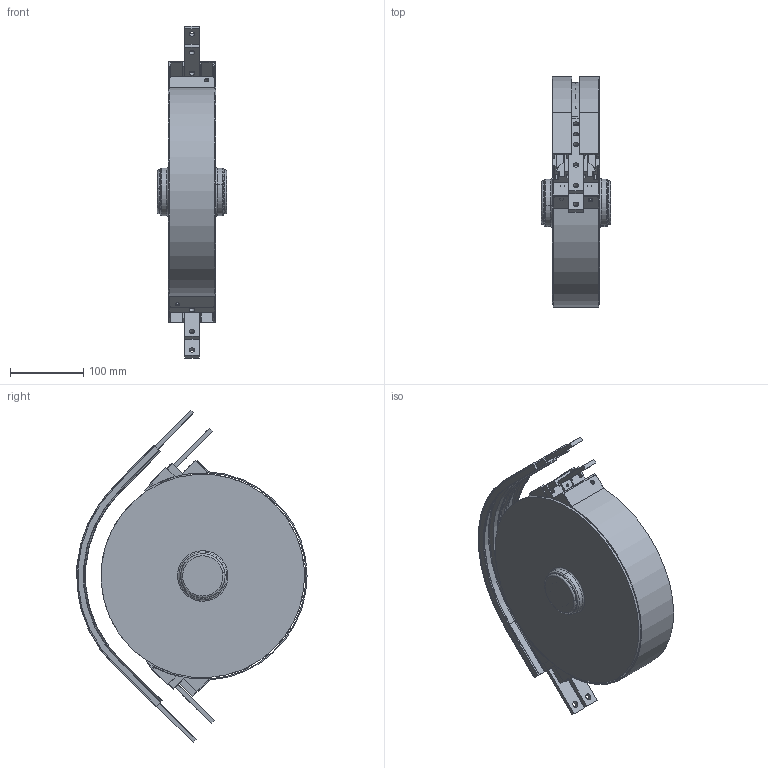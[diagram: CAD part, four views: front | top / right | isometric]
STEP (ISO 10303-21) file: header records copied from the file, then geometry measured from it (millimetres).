
FILE_DESCRIPTION (( 'STEP AP214' ), '1' );
FILE_NAME ('FKWB-90R150A.STEP', '2012-03-20T14:04:52', ( 'gs' ), ( 'Microsoft' ), 'SwSTEP 2.0', 'SolidWorks 2011', '' );
FILE_SCHEMA (( 'AUTOMOTIVE_DESIGN' ));
Length unit declared in the file: millimetre
Products named in the file (11): CP1007-90_Default; FACS-20X140_Default; FAEC-WH_Default; WH44001K_Default; FKWB90R150-CB_Default; WH278063_Default; WH63001_Default; FACS-20X140M-FK_Default; WH08001-FK_Default; WH63003_Default; FKWB-90R150A
Assembly tree (16 placements, depth 2):
  FKWB-90R150A
    FAEC-WH_Default  x2
    FACS-20X140_Default  x2
    WH44001K_Default
    WH08001-FK_Default  x2
    WH278063_Default  x2
    FKWB90R150-CB_Default
    CP1007-90_Default
    FACS-20X140M-FK_Default  x2
    WH63003_Default
    WH63001_Default  x2
Bounding box: 94.5 x 314.44 x 453.53 mm (x, y, z)
Volume: 1564682.7 mm3; surface area: 642415.6 mm2
Topology: 16 solids, 16 shells, 1492 faces, 4027 edges, 2664 vertices
Faces by surface type: plane 807, cylinder 352, bspline 236, torus 89, cone 8
Entity records: 33118 total; most frequent: CARTESIAN_POINT 12074, ORIENTED_EDGE 4506, DIRECTION 3899, EDGE_CURVE 2253, VERTEX_POINT 1486, VECTOR 1359, LINE 1359, AXIS2_PLACEMENT_3D 1270
